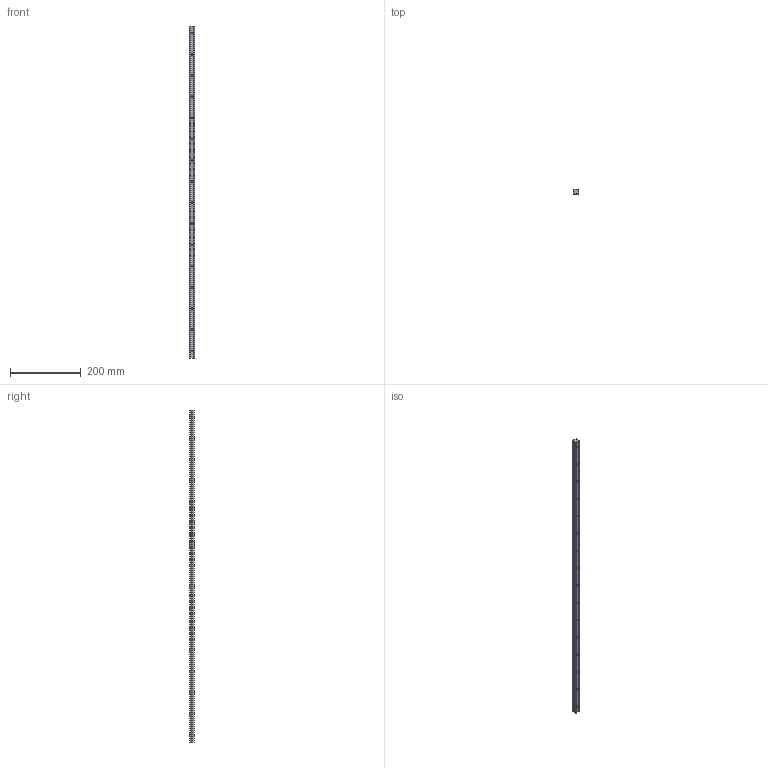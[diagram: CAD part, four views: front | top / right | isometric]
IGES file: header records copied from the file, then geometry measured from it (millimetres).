
Start section: SolidWorks IGES file using analytic representation for surfaces
Global section: file name: C:\Users\IanO\Desktop\L1016_v2\L1016.BL15_v2\L1016.BL15_v2_20190611_IGES\L1016.BL15-0940.igs; native system: SolidWorks 2017; preprocessor: SolidWorks 2017; author: IanO; date: 190612.122710; units: millimetre
Bounding box: 15 x 13 x 940 mm (x, y, z)
Surface area: 57694 mm2 (no closed solid volume)
Topology: 0 solids, 0 shells, 106 faces, 2456 edges, 2456 vertices
Faces by surface type: revolution 68, bspline 38
